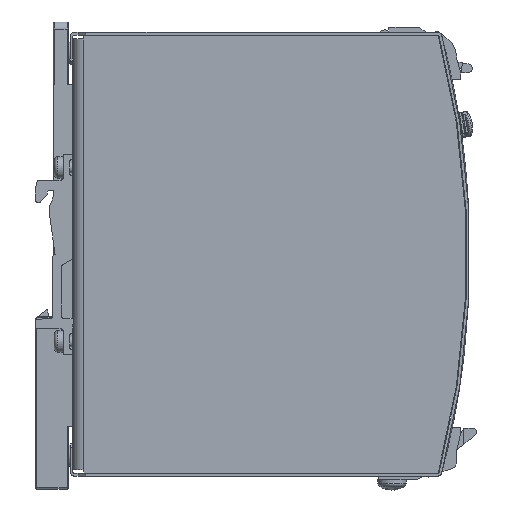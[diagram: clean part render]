
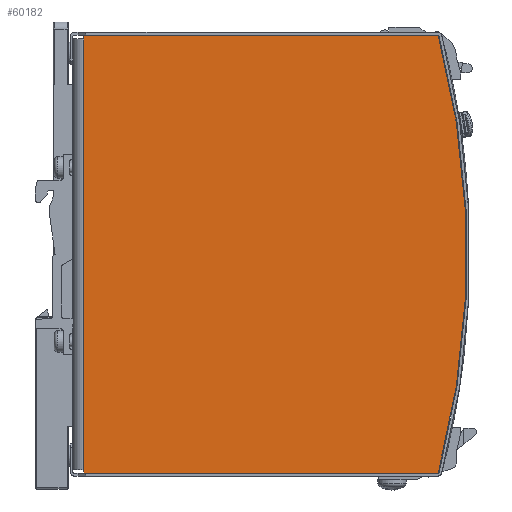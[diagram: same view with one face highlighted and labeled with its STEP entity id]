
A CAD part, front view. The second image highlights one B-rep face of the part: STEP entity #60182.
In plain terms, the highlighted planar face has unit normal (0, -1, 0).
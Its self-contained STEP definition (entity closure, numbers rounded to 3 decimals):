
#2602=CIRCLE('',#63635,240.);
#3551=FACE_OUTER_BOUND('',#6658,.T.);
#6658=EDGE_LOOP('',(#40041,#40042,#40043,#40044,#40045,#40046));
#10747=LINE('',#81421,#17948);
#10756=LINE('',#81449,#17957);
#10764=LINE('',#81460,#17965);
#10766=LINE('',#81464,#17967);
#10768=LINE('',#81467,#17969);
#17948=VECTOR('',#67203,10.);
#17957=VECTOR('',#67226,10.);
#17965=VECTOR('',#67240,10.);
#17967=VECTOR('',#67246,10.);
#17969=VECTOR('',#67250,10.);
#25136=VERTEX_POINT('',#81379);
#25137=VERTEX_POINT('',#81381);
#25143=VERTEX_POINT('',#81395);
#25153=VERTEX_POINT('',#81419);
#25154=VERTEX_POINT('',#81423);
#25165=VERTEX_POINT('',#81448);
#31058=EDGE_CURVE('',#25137,#25136,#2602,.T.);
#31077=EDGE_CURVE('',#25153,#25143,#10747,.T.);
#31090=EDGE_CURVE('',#25154,#25165,#10756,.T.);
#31098=EDGE_CURVE('',#25153,#25137,#10764,.T.);
#31100=EDGE_CURVE('',#25143,#25154,#10766,.T.);
#31102=EDGE_CURVE('',#25136,#25165,#10768,.T.);
#40041=ORIENTED_EDGE('',*,*,#31058,.T.);
#40042=ORIENTED_EDGE('',*,*,#31102,.T.);
#40043=ORIENTED_EDGE('',*,*,#31090,.F.);
#40044=ORIENTED_EDGE('',*,*,#31100,.F.);
#40045=ORIENTED_EDGE('',*,*,#31077,.F.);
#40046=ORIENTED_EDGE('',*,*,#31098,.T.);
#57716=PLANE('',#63663);
#60182=ADVANCED_FACE('',(#3551),#57716,.T.);
#63635=AXIS2_PLACEMENT_3D('',#81382,#67169,#67170);
#63663=AXIS2_PLACEMENT_3D('',#81476,#67263,#67264);
#67169=DIRECTION('center_axis',(0.,-1.,0.));
#67170=DIRECTION('ref_axis',(-0.967,0.,0.255));
#67203=DIRECTION('',(0.,0.,1.));
#67226=DIRECTION('',(0.,0.,1.));
#67240=DIRECTION('',(1.,0.,0.));
#67246=DIRECTION('',(0.,0.,1.));
#67250=DIRECTION('',(-1.,0.,0.));
#67263=DIRECTION('center_axis',(0.,-1.,0.));
#67264=DIRECTION('ref_axis',(0.,0.,-1.));
#81379=CARTESIAN_POINT('',(102.079,-30.,61.15));
#81381=CARTESIAN_POINT('',(102.079,-30.,-61.15));
#81382=CARTESIAN_POINT('Origin',(-130.,-30.,0.));
#81395=CARTESIAN_POINT('',(3.,-30.,-60.15));
#81419=CARTESIAN_POINT('',(3.,-30.,-61.15));
#81421=CARTESIAN_POINT('',(3.,-30.,0.));
#81423=CARTESIAN_POINT('',(3.,-30.,60.15));
#81448=CARTESIAN_POINT('',(3.,-30.,61.15));
#81449=CARTESIAN_POINT('',(3.,-30.,0.));
#81460=CARTESIAN_POINT('',(3.,-30.,-61.15));
#81464=CARTESIAN_POINT('',(3.,-30.,0.));
#81467=CARTESIAN_POINT('',(3.,-30.,61.15));
#81476=CARTESIAN_POINT('Origin',(120.,-30.,0.));
